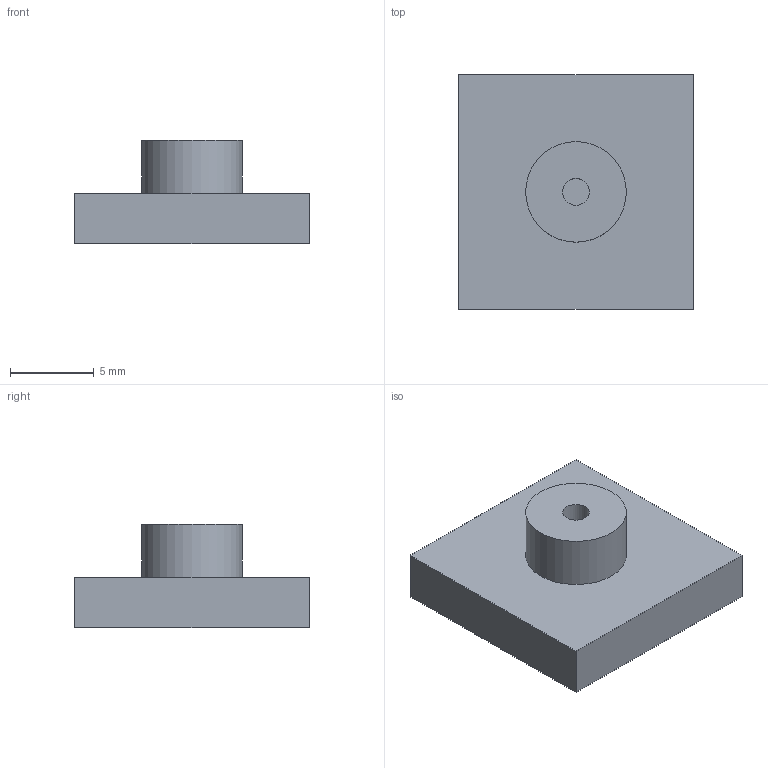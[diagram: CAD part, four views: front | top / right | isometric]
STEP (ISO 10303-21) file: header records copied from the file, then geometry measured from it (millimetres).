
FILE_DESCRIPTION(('Open CASCADE Model'),'2;1');
FILE_NAME('Open CASCADE Shape Model','2026-09-15T13:32:55',('Author'),( 'Open CASCADE'),'Open CASCADE STEP processor 7.7','Open CASCADE 7.7' ,'Unknown');
FILE_SCHEMA(('AUTOMOTIVE_DESIGN { 1 0 10303 214 1 1 1 1 }'));
Length unit declared in the file: millimetre
Products named in the file (1): QP02_M2_PILOT_D1.6
Bounding box: 14 x 14 x 6.15 mm (x, y, z)
Volume: 669.4 mm3; surface area: 638.5 mm2
Topology: 1 solids, 1 shells, 10 faces, 18 edges, 12 vertices
Faces by surface type: plane 8, cylinder 2
Full cylindrical faces by diameter (mm): 1.6 x1, 6 x1
Entity records: 490 total; most frequent: DIRECTION 80, CARTESIAN_POINT 77, LINE 46, VECTOR 46, ORIENTED_EDGE 36, PCURVE 36, DEFINITIONAL_REPRESENTATION 36, EDGE_CURVE 18
